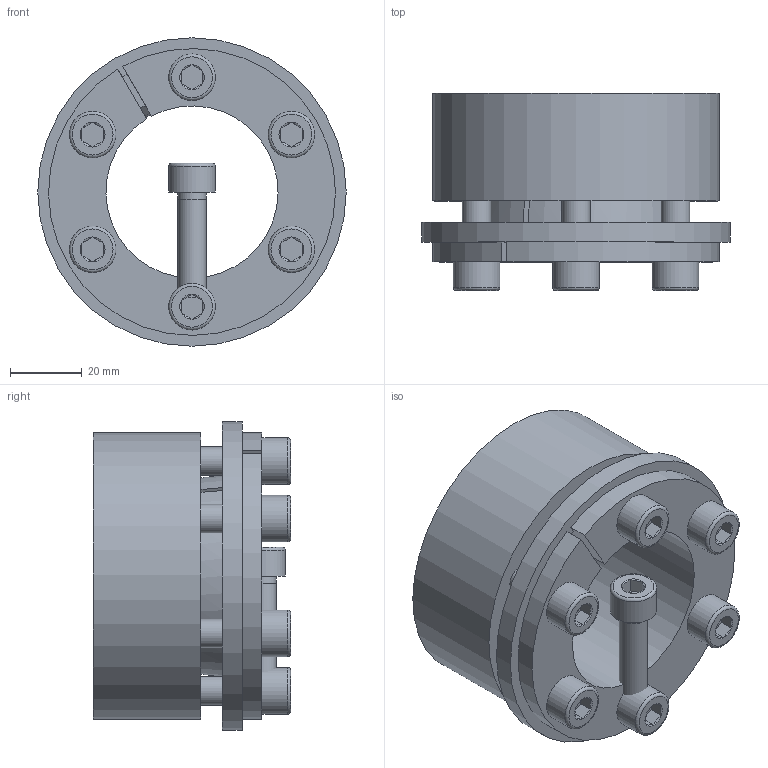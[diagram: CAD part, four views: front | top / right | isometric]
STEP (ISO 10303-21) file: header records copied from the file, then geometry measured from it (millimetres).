
FILE_DESCRIPTION( ( 'Unknown' ), '1' );
FILE_NAME( 'C:/Dokumente und Einstellungen/Sven/Desktop/homepage/cad - homepage/KBS71/KBS 71 - 48 x 80.stp', 'Unknown', ( 'Unknown' ), ( 'Unknown' ), 'XStep 1.0', 'Unknown', ' ' );
FILE_SCHEMA( ( 'automotive_design' ) );
Length unit declared in the file: millimetre
Products named in the file (3): Assem1; KBS 71 - 48 x 80; ISO EN DIN 4762 M8x30
Bounding box: 86 x 55 x 86 mm (x, y, z)
Volume: 268688.9 mm3; surface area: 86107.8 mm2
Topology: 9 solids, 9 shells, 247 faces, 537 edges, 322 vertices
Faces by surface type: plane 116, cylinder 60, cone 57, torus 14
Full cylindrical faces by diameter (mm): 7 x7, 8 x38, 13 x7, 86 x2
Entity records: 2126 total; most frequent: CARTESIAN_POINT 341, DIRECTION 320, ORIENTED_EDGE 252, AXIS2_PLACEMENT_3D 135, EDGE_CURVE 126, EDGE_LOOP 108, VERTEX_POINT 88, FACE_OUTER_BOUND 80
